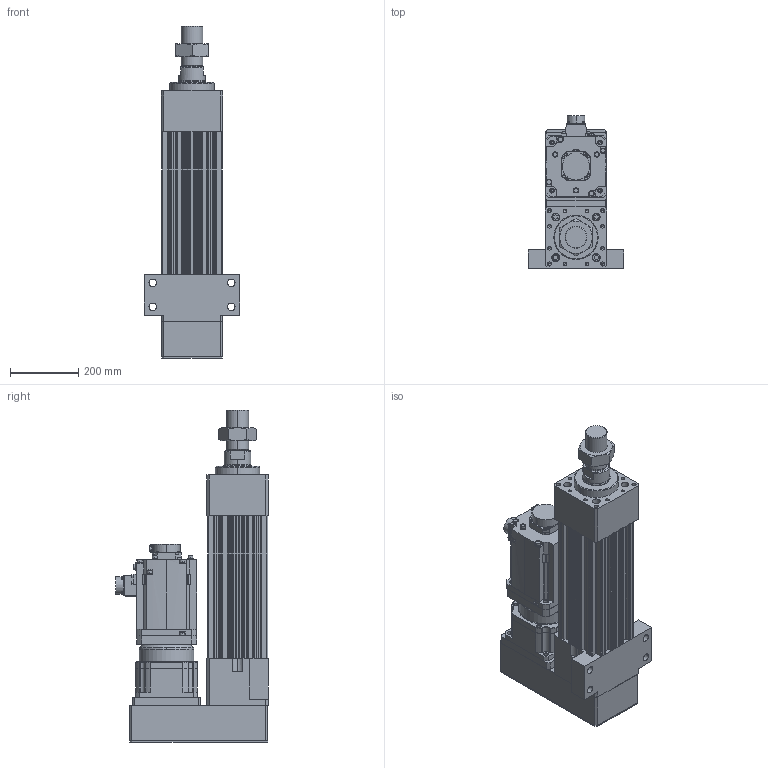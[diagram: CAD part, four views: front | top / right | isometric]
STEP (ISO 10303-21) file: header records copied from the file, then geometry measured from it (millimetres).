
FILE_DESCRIPTION (( 'STEP AP203' ), '1' );
FILE_NAME ('HES180HS-P100-W070G00-M-FFC.STEP', '2026-06-10T06:49:10', ( 'tms' ), ( '' ), 'SwSTEP 2.0', 'SolidWorks 2013', '' );
FILE_SCHEMA (( 'CONFIG_CONTROL_DESIGN' ));
Length unit declared in the file: millimetre
Products named in the file (9): HES180-P-G180; HES180HS-P100-W070G00-M-FFC; HES180-M-ROD-100; AB1802; HG-SR702B; HES180-FFC-100; AB1801; M64X2.0P; AB1803
Assembly tree (8 placements, depth 2):
  HES180HS-P100-W070G00-M-FFC
    HES180-FFC-100
    HES180-M-ROD-100
    M64X2.0P
    HES180-P-G180
    AB1801
    AB1802
    AB1803
    HG-SR702B
Bounding box: 280 x 447.1 x 972 mm (x, y, z)
Volume: 25685546.5 mm3; surface area: 2172967.4 mm2
Topology: 5 solids, 20 shells, 1538 faces, 3985 edges, 2580 vertices
Faces by surface type: cylinder 708, plane 605, cone 158, bspline 63, torus 4
Entity records: 55722 total; most frequent: CARTESIAN_POINT 16516, DIRECTION 8271, ORIENTED_EDGE 7846, EDGE_CURVE 3947, AXIS2_PLACEMENT_3D 3115, VERTEX_POINT 2580, LINE 2041, VECTOR 2041
